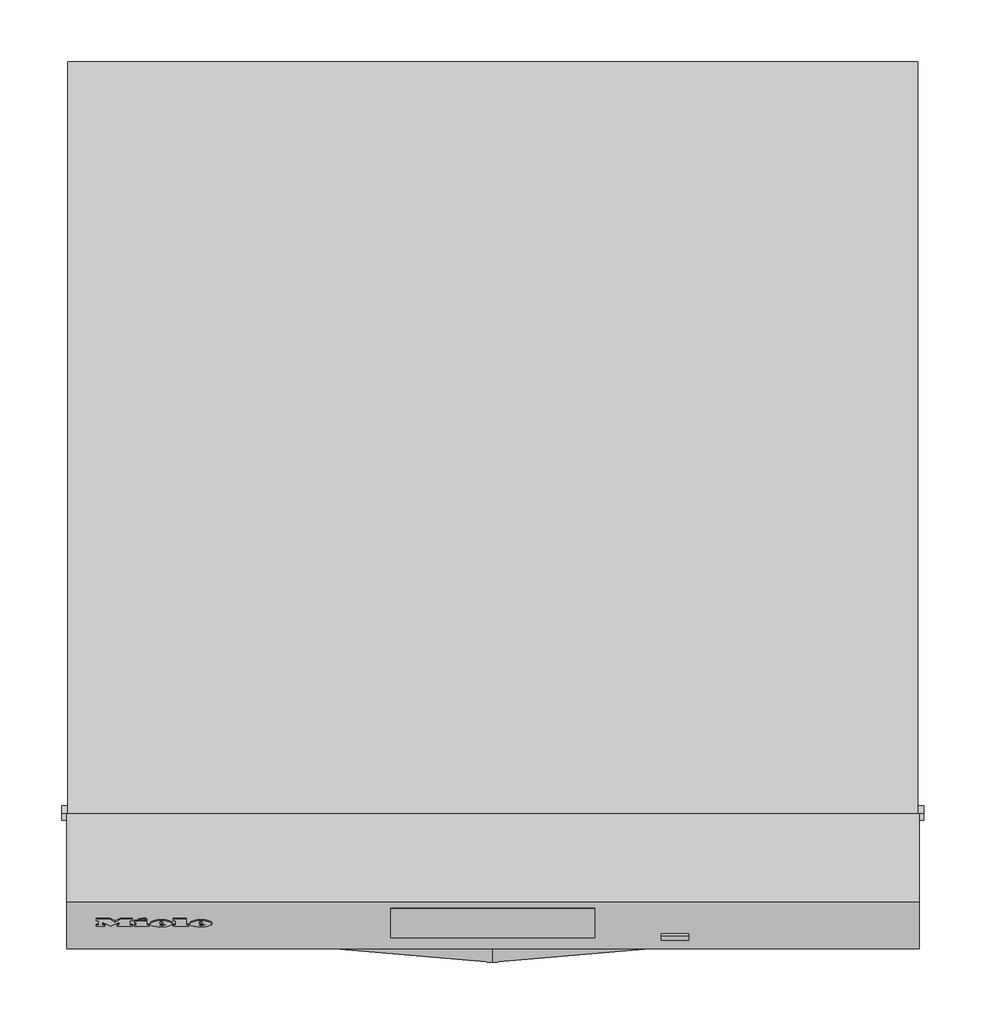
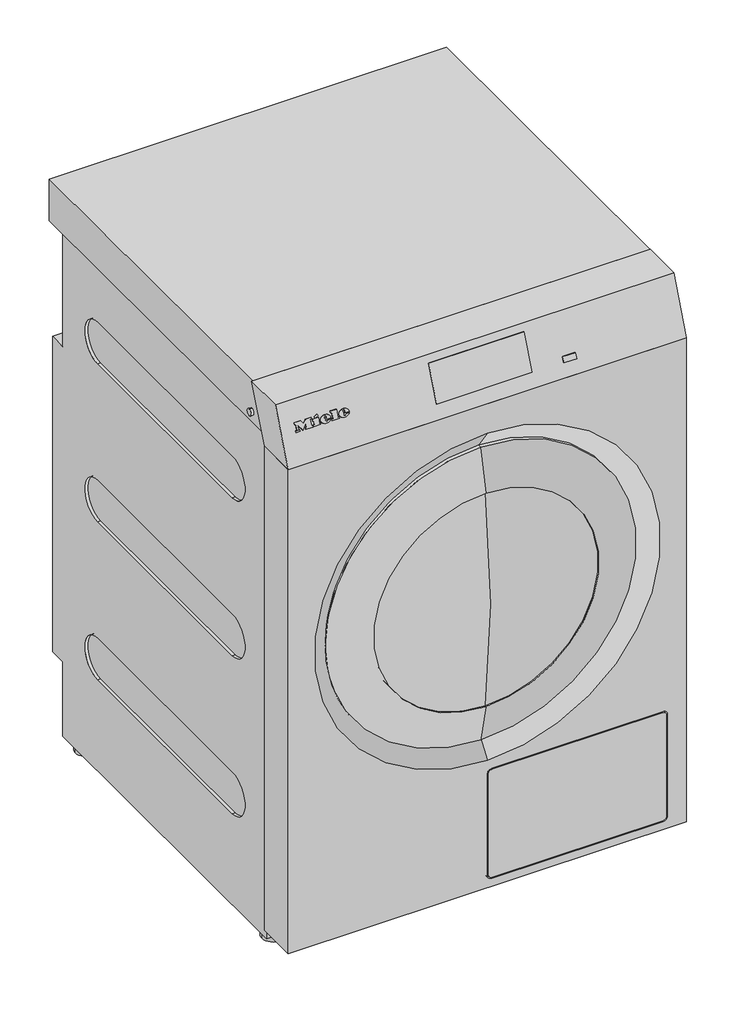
# Not in any storey: 1 proxy.
"""IFC4 building model written with IfcOpenShell, lengths in millimetres."""

from ifc_helpers import new_model, si_unit, origin, place, context, project, spatial, transform, mapped, element, save
from components import specialty_equipment_07fa5085, specialty_equipment_7c50d67c

model = new_model("IFC4")

# Units and contexts
model_context = context("Model", 3, world=origin())
ifc_project = project(units=[si_unit("LENGTHUNIT", "METRE", prefix="MILLI")], contexts=[model_context])

# Site, building
site = spatial("IfcSite", under=ifc_project)
building = spatial("IfcBuilding", under=site)

# Proxy
placement = place(None, origin())
specialty_equipment_shape = specialty_equipment_07fa5085(model_context)
specialty_equipment_2_shape = specialty_equipment_7c50d67c(model_context)
element("IfcBuildingElementProxy", 1, Name="11924480_EU_PDR910G_IG : 52910010_EU_11924480_PDR910G_IG", ObjectType="11924480_EU_PDR910G_IG : 52910010_EU_11924480_PDR910G_IG", at=placement, inside=building, context=model_context, shape_type="MappedRepresentation", body=[
    mapped(specialty_equipment_shape, transform((0.0, 0.0, 0.0), x_axis=(1.0, 0.0, 0.0), y_axis=(0.0, 1.0, 0.0), z_axis=(0.0, 0.0, 1.0))),
    mapped(specialty_equipment_2_shape, transform((0.0, 0.0, 0.0), x_axis=(1.0, 0.0, 0.0), y_axis=(0.0, 1.0, 0.0), z_axis=(0.0, 0.0, 1.0))),
])

save(model, "model.ifc")
